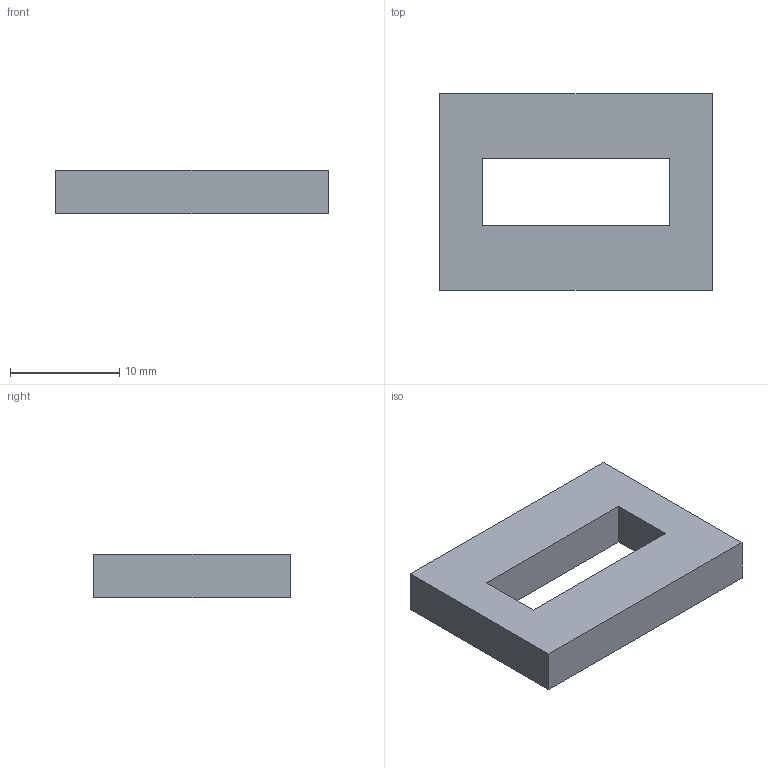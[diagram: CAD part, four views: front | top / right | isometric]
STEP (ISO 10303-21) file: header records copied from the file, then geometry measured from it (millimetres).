
FILE_DESCRIPTION(('FreeCAD Model'),'2;1');
FILE_NAME('Open CASCADE Shape Model','2026-11-20T08:25:39',('FreeCAD'),( 'FreeCAD'),'Open CASCADE STEP processor 7.8','FreeCAD','Unknown');
FILE_SCHEMA(('AUTOMOTIVE_DESIGN { 1 0 10303 214 1 1 1 1 }'));
Length unit declared in the file: millimetre
Products named in the file (1): Open CASCADE STEP translator 7.8 97
Bounding box: 25 x 18 x 4 mm (x, y, z)
Volume: 1380.3 mm3; surface area: 1220.6 mm2
Topology: 1 solids, 1 shells, 10 faces, 24 edges, 16 vertices
Faces by surface type: plane 10
Entity records: 302 total; most frequent: CARTESIAN_POINT 51, ORIENTED_EDGE 48, DIRECTION 46, EDGE_CURVE 24, LINE 24, VECTOR 24, VERTEX_POINT 16, FACE_BOUND 12
